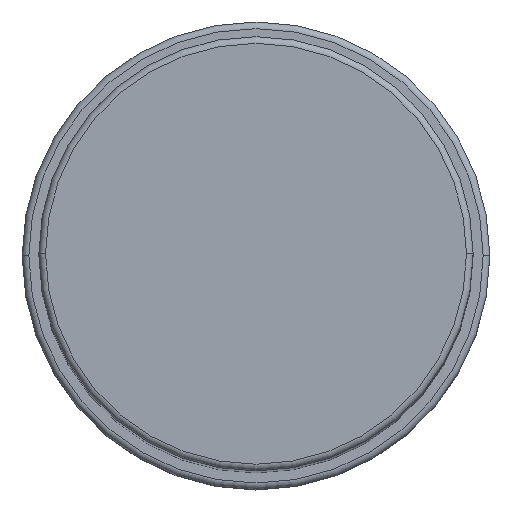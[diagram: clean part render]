
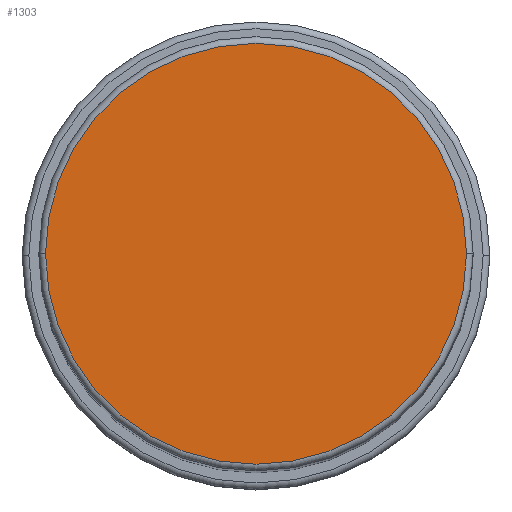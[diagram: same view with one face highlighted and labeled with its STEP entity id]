
A CAD part, top view. The second image highlights one B-rep face of the part: STEP entity #1303.
In plain terms, the highlighted planar face has unit normal (0, 0, 1).
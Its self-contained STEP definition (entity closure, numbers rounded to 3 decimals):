
#99 = CARTESIAN_POINT ( 'NONE',  ( 0., 0., 188. ) ) ;
#121 = EDGE_LOOP ( 'NONE', ( #1163, #1449 ) ) ;
#236 = AXIS2_PLACEMENT_3D ( 'NONE', #1731, #518, #1581 ) ;
#306 = DIRECTION ( 'NONE',  ( 0., 0., 1. ) ) ;
#455 = DIRECTION ( 'NONE',  ( 1., 0., 0. ) ) ;
#456 = EDGE_CURVE ( 'NONE', #634, #1608, #762, .T. ) ;
#475 = CIRCLE ( 'NONE', #704, 31.5 ) ;
#518 = DIRECTION ( 'NONE',  ( 0., 0., 1. ) ) ;
#587 = DIRECTION ( 'NONE',  ( 1., 0., 0. ) ) ;
#614 = CARTESIAN_POINT ( 'NONE',  ( 0., 0., 188. ) ) ;
#634 = VERTEX_POINT ( 'NONE', #1978 ) ;
#704 = AXIS2_PLACEMENT_3D ( 'NONE', #99, #1180, #587 ) ;
#762 = CIRCLE ( 'NONE', #236, 31.5 ) ;
#915 = AXIS2_PLACEMENT_3D ( 'NONE', #614, #306, #455 ) ;
#1040 = PLANE ( 'NONE',  #915 ) ;
#1163 = ORIENTED_EDGE ( 'NONE', *, *, #456, .T. ) ;
#1180 = DIRECTION ( 'NONE',  ( 0., 0., 1. ) ) ;
#1282 = CARTESIAN_POINT ( 'NONE',  ( -31.5, 0., 188. ) ) ;
#1286 = EDGE_CURVE ( 'NONE', #1608, #634, #475, .T. ) ;
#1288 = FACE_OUTER_BOUND ( 'NONE', #121, .T. ) ;
#1303 = ADVANCED_FACE ( 'NONE', ( #1288 ), #1040, .T. ) ;
#1449 = ORIENTED_EDGE ( 'NONE', *, *, #1286, .T. ) ;
#1581 = DIRECTION ( 'NONE',  ( 1., 0., 0. ) ) ;
#1608 = VERTEX_POINT ( 'NONE', #1282 ) ;
#1731 = CARTESIAN_POINT ( 'NONE',  ( 0., 0., 188. ) ) ;
#1978 = CARTESIAN_POINT ( 'NONE',  ( 31.5, 0., 188. ) ) ;
